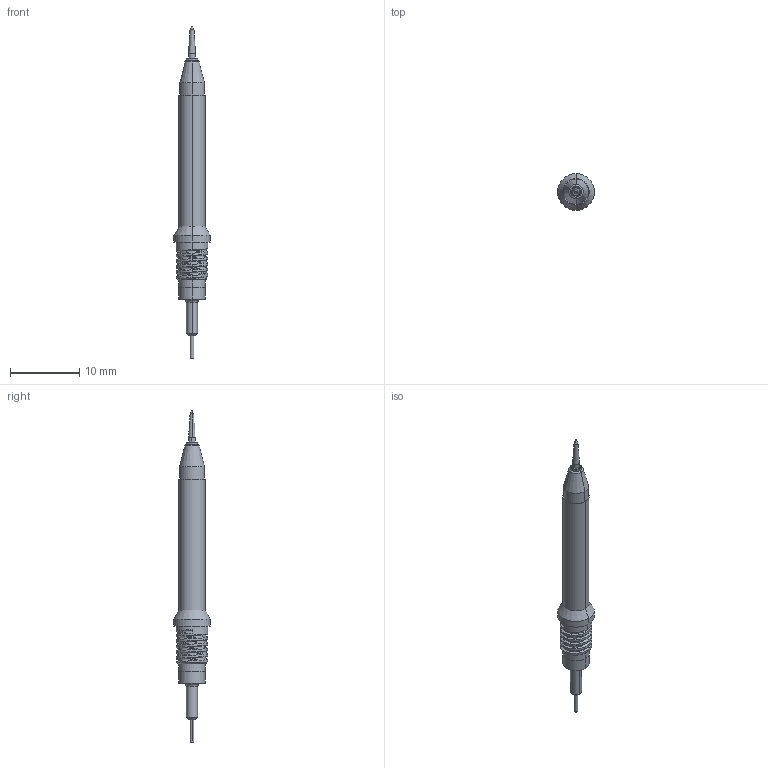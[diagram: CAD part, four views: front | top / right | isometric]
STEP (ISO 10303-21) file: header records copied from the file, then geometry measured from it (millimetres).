
FILE_DESCRIPTION((''),'2;1');
FILE_NAME('PH_CART_RIGID_PNY_ASM','2026-05-21T11:07:43',('mthomps2'),(''),'CREO PARAMETRIC BY PTC INC, 2022284','CREO PARAMETRIC BY PTC INC, 2022284','');
FILE_SCHEMA(('CONFIG_CONTROL_DESIGN','SHAPE_APPEARANCE_LAYERS_GROUPS'));
Length unit declared in the file: millimetre
Products named in the file (17): PH_CART_RIGID_SKEL_PNY; PH_CART_TIP_RIGID_SKEL_CHI; PH_CART_TIP_HOLDER_RIGID_CHI; PH_CART_TIP_RIGID_CHI; PH_CART_TIP_RIGID_CHI_ASM; PH_CART_TUBE_CHI; PH_CART_TAIL_RIGID_SKEL_CHI; PH_CART_TAIL_HLDR_RIGID_CHI; PH_CART_TAIL_WIRE_RIGID_CHI; PH_CART_TAIL_RIGID_PINK_PNY_ASM; PH_CART_HYBHLDR_RIGID_SKEL_CHI; PH_CART_HYB_HOLDER_RIGID_CHI; PH_CART_ELASTOMER_CHI; PH_CART_HYBRID_PNY; TPP_CART_HYBRID_ASM_PNY_ASM; 19; PH_CART_RIGID_PNY_ASM
Assembly tree (18 placements, depth 3):
  PH_CART_RIGID_PNY_ASM
    PH_CART_RIGID_SKEL_PNY
    PH_CART_TIP_RIGID_CHI_ASM
      PH_CART_TIP_RIGID_SKEL_CHI
      PH_CART_TIP_HOLDER_RIGID_CHI
      PH_CART_TIP_RIGID_CHI
    PH_CART_TUBE_CHI
    PH_CART_TAIL_RIGID_PINK_PNY_ASM
      PH_CART_TAIL_RIGID_SKEL_CHI
      PH_CART_TAIL_HLDR_RIGID_CHI
      PH_CART_TAIL_WIRE_RIGID_CHI
    TPP_CART_HYBRID_ASM_PNY_ASM
      PH_CART_HYBHLDR_RIGID_SKEL_CHI
      PH_CART_HYB_HOLDER_RIGID_CHI
      PH_CART_ELASTOMER_CHI  x3
      PH_CART_HYBRID_PNY
    19
Bounding box: 5.3 x 5.3 x 47.85 mm (x, y, z)
Volume: 309.4 mm3; surface area: 1656.5 mm2
Topology: 12 solids, 12 shells, 281 faces, 876 edges, 672 vertices
Faces by surface type: cylinder 125, plane 73, cone 47, torus 20, bspline 14, sphere 2
Entity records: 16493 total; most frequent: CARTESIAN_POINT 5933, DIRECTION 1581, ORIENTED_EDGE 1342, PRESENTATION_STYLE_ASSIGNMENT 876, STYLED_ITEM 876, CURVE_STYLE 867, EDGE_CURVE 671, AXIS2_PLACEMENT_3D 607
